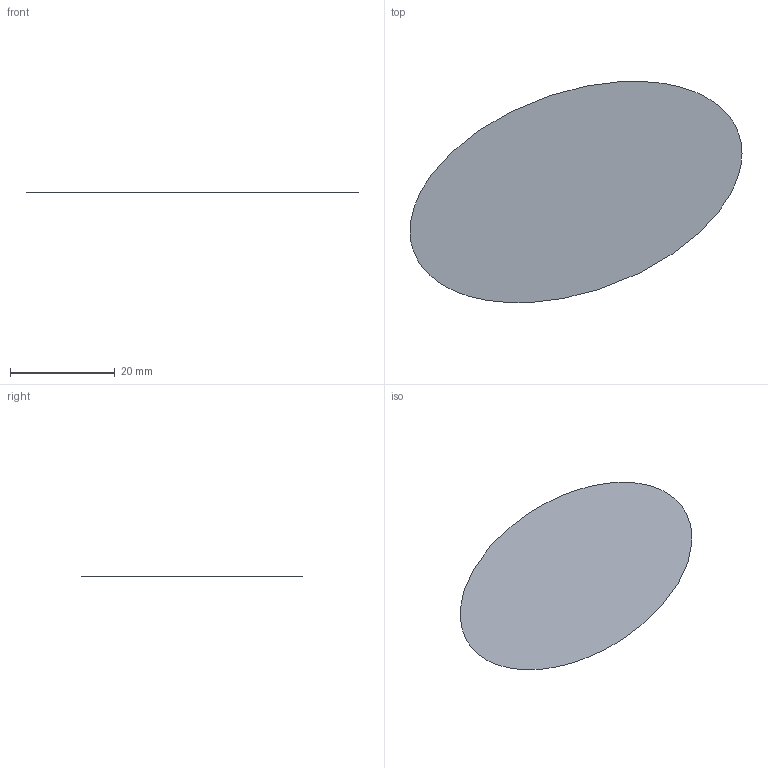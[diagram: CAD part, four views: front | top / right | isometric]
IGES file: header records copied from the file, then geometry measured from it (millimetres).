
Global section: file name: Filename.iges; native system: Open CASCADE 7.9; preprocessor: Open CASCADE IGES processor 7.9; author: HAKAN KARATEKE; date: 20261015.195651; units: centimetre
Bounding box: 63.34 x 42.2 x 0 mm (x, y, z)
Surface area: 1969.7 mm2 (no closed solid volume)
Topology: 0 solids, 0 shells, 1 faces, 1 edges, 1 vertices
Faces by surface type: plane 1
